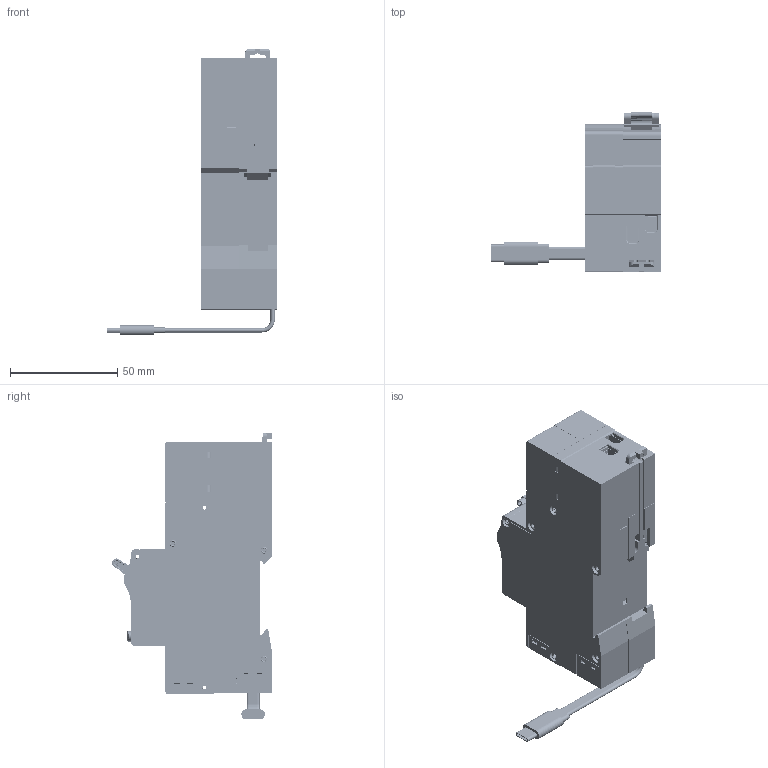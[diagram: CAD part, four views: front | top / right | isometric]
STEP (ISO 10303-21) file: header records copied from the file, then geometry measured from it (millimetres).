
FILE_DESCRIPTION (( 'STEP AP214' ), '1' );
FILE_NAME ('NDB5EL-40 2P.step', '2023-12-13T05:35:22', ( '' ), ( '' ), 'SwSTEP 2.0', 'SolidWorks 2018', '' );
FILE_SCHEMA (( 'AUTOMOTIVE_DESIGN' ));
Length unit declared in the file: millimetre
Products named in the file (1): NDB5EL-40 2P
Bounding box: 79 x 74.59 x 133.57 mm (x, y, z)
Volume: 86671.7 mm3; surface area: 140441.8 mm2
Topology: 54 solids, 56 shells, 9821 faces, 26611 edges, 17021 vertices
Faces by surface type: plane 6377, cylinder 2330, bspline 458, cone 259, sphere 220, torus 177
Entity records: 433756 total; most frequent: CARTESIAN_POINT 78382, ORIENTED_EDGE 52806, DIRECTION 48994, EDGE_CURVE 26403, VECTOR 19592, LINE 19592, VERTEX_POINT 17021, AXIS2_PLACEMENT_3D 14701
